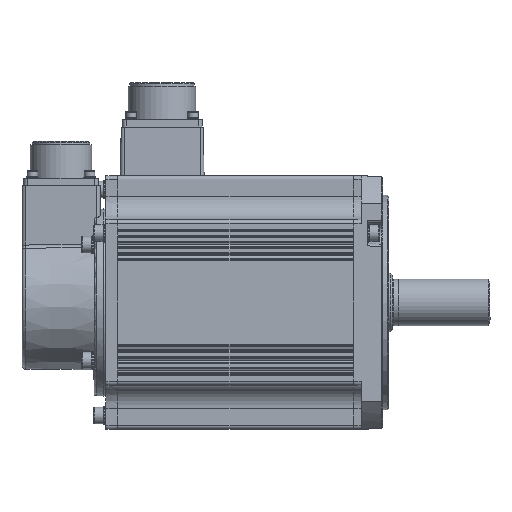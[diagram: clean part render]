
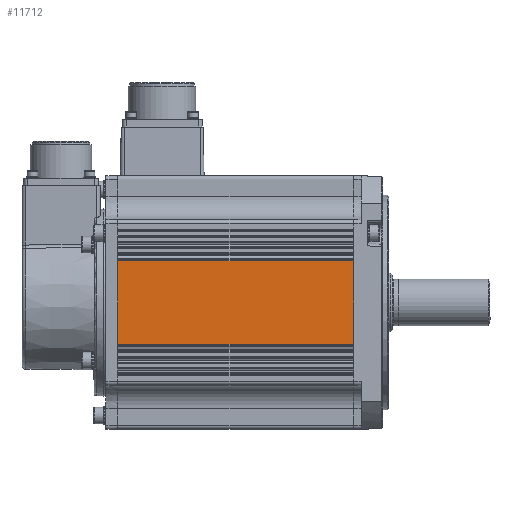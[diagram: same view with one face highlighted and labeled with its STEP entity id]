
A CAD part, left-side view. The second image highlights one B-rep face of the part: STEP entity #11712.
In plain terms, the highlighted planar face has unit normal (-1, 0, 0).
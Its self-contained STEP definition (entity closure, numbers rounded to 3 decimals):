
#6121=CARTESIAN_POINT('',(-65.,136.,21.534));
#6122=VERTEX_POINT('',#6121);
#6327=CARTESIAN_POINT('',(-65.,136.,-21.534));
#6328=VERTEX_POINT('',#6327);
#7043=CARTESIAN_POINT('',(-65.,136.,-21.534));
#7044=DIRECTION('',(0.0,0.0,1.0));
#7045=VECTOR('',#7044,43.067);
#7046=LINE('',#7043,#7045);
#7047=EDGE_CURVE('',#6328,#6122,#7046,.T.);
#11663=CARTESIAN_POINT('',(-65.,15.,21.534));
#11664=VERTEX_POINT('',#11663);
#11665=CARTESIAN_POINT('',(-65.,136.,21.534));
#11666=DIRECTION('',(0.0,-1.0,0.0));
#11667=VECTOR('',#11666,121.);
#11668=LINE('',#11665,#11667);
#11669=EDGE_CURVE('',#6122,#11664,#11668,.T.);
#11689=CARTESIAN_POINT('',(-65.,136.,-40.5));
#11690=DIRECTION('',(-1.0,0.0,0.0));
#11691=DIRECTION('',(0.0,0.0,1.0));
#11692=AXIS2_PLACEMENT_3D('',#11689,#11690,#11691);
#11693=PLANE('',#11692);
#11694=ORIENTED_EDGE('',*,*,#11669,.F.);
#11695=ORIENTED_EDGE('',*,*,#7047,.F.);
#11696=CARTESIAN_POINT('',(-65.,15.,-21.534));
#11697=VERTEX_POINT('',#11696);
#11698=CARTESIAN_POINT('',(-65.,136.,-21.534));
#11699=DIRECTION('',(0.0,-1.0,0.0));
#11700=VECTOR('',#11699,121.);
#11701=LINE('',#11698,#11700);
#11702=EDGE_CURVE('',#6328,#11697,#11701,.T.);
#11703=ORIENTED_EDGE('',*,*,#11702,.T.);
#11704=CARTESIAN_POINT('',(-65.,15.,21.534));
#11705=DIRECTION('',(0.0,0.0,-1.0));
#11706=VECTOR('',#11705,43.067);
#11707=LINE('',#11704,#11706);
#11708=EDGE_CURVE('',#11664,#11697,#11707,.T.);
#11709=ORIENTED_EDGE('',*,*,#11708,.F.);
#11710=EDGE_LOOP('',(#11694,#11695,#11703,#11709));
#11711=FACE_OUTER_BOUND('',#11710,.T.);
#11712=ADVANCED_FACE('',(#11711),#11693,.T.);
